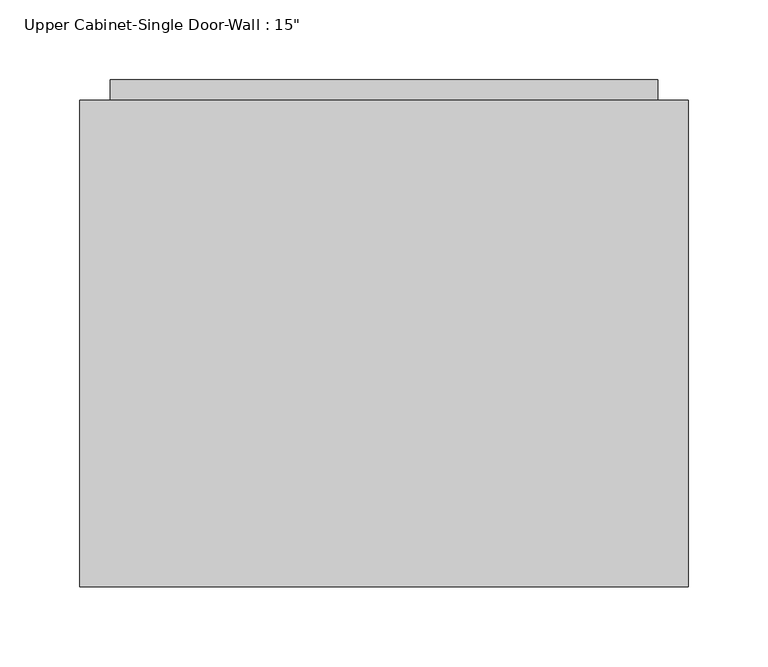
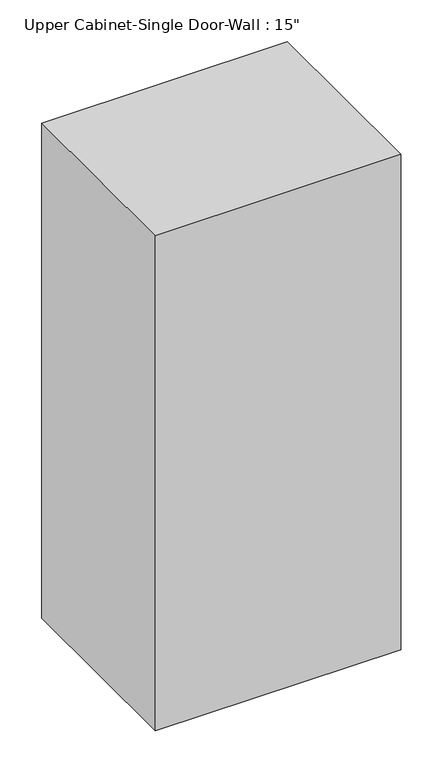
"""IFC4 building model written with IfcOpenShell, lengths in millimetres: furniture geometry."""

from ifc_helpers import new_model, si_unit, frame, origin, place, context, project, spatial, polyline, outline, extrude, faceted_brep, source, transform, mapped, element, save


def furniture_839b1c73(model_context):
    return source(origin(), model_context, "Body", "SolidModel", [
        faceted_brep([(-122.6288372, 76.2, 2133.6), (-122.6288372, 76.2, 1320.8), (258.3711628, 76.2, 1320.8), (258.3711628, 76.2, 2133.6), (-122.6288372, 381.0, 2133.6), (258.3711628, 381.0, 2133.6), (258.3711628, 381.0, 1320.8), (-122.6288372, 381.0, 1320.8), (-103.5788372, 381.0, 2114.55), (-103.5788372, 381.0, 1339.85), (239.3211628, 381.0, 1339.85), (239.3211628, 381.0, 2114.55), (239.3211628, 95.25, 2114.55), (-103.5788372, 95.25, 2114.55), (239.3211628, 95.25, 1339.85), (-103.5788372, 95.25, 1339.85)], [[[0, 1, 2, 3]], [[4, 5, 6, 7], [8, 9, 10, 11]], [[1, 0, 4, 7]], [[2, 1, 7, 6]], [[3, 2, 6, 5]], [[0, 3, 5, 4]], [[8, 11, 12, 13]], [[11, 10, 14, 12]], [[10, 9, 15, 14]], [[9, 8, 13, 15]], [[13, 12, 14, 15]]]),
        extrude(outline(polyline([(-103.5788372, 393.7), (239.3211628, 393.7), (239.3211628, 361.95), (-103.5788372, 361.95), (-103.5788372, 393.7)])), frame((0.0, 0.0, 1339.85), z_axis=(0.0, 0.0, 1.0), x_axis=(1.0, 0.0, 0.0)), (0.0, 0.0, 1.0), 774.7),
    ])


if __name__ == "__main__":
    model = new_model("IFC4")
    model_context = context("Model", 3, world=origin())
    ifc_project = project(units=[si_unit("LENGTHUNIT", "METRE", prefix="MILLI")], contexts=[model_context])
    site = spatial("IfcSite", under=ifc_project)
    building = spatial("IfcBuilding", under=site)
    placement = place(None, origin())
    furniture_shape = furniture_839b1c73(model_context)
    element("IfcFurniture", 1, ObjectType="Upper Cabinet-Single Door-Wall : 15\"", at=placement, inside=building, context=model_context, shape_type="MappedRepresentation", body=[
        mapped(furniture_shape, transform((0.0, 0.0, 0.0), x_axis=(1.0, 0.0, 0.0), y_axis=(0.0, 1.0, 0.0), z_axis=(0.0, 0.0, 1.0))),
    ])
    save(model, "model.ifc")
